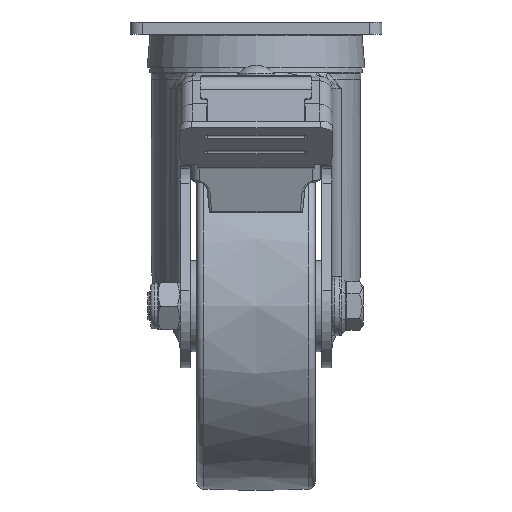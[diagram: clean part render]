
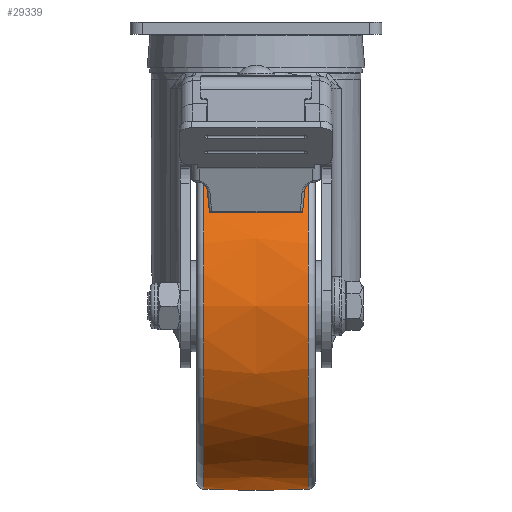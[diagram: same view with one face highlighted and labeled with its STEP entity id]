
A CAD part, left-side view. The second image highlights one B-rep face of the part: STEP entity #29339.
In plain terms, the highlighted free-form (B-spline) face has degree [2, 2] with [3, 9] control points.
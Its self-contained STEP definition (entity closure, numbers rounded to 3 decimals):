
#7224=(
BOUNDED_SURFACE()
B_SPLINE_SURFACE(2,2,((#41277,#41278,#41279,#41280,#41281,#41282,#41283,
#41284,#41285),(#41286,#41287,#41288,#41289,#41290,#41291,#41292,#41293,
#41294),(#41295,#41296,#41297,#41298,#41299,#41300,#41301,#41302,#41303)),
 .UNSPECIFIED.,.F.,.T.,.F.)
B_SPLINE_SURFACE_WITH_KNOTS((3,3),(3,2,2,2,3),(-0.03,0.03),
(-3.142,-1.571,0.,1.571,3.142),
 .UNSPECIFIED.)
GEOMETRIC_REPRESENTATION_ITEM()
RATIONAL_B_SPLINE_SURFACE(((1.,0.707,1.,0.707,1.,
0.707,1.,0.707,1.),(1.,0.707,
1.,0.707,1.,0.707,1.,
0.707,1.),(1.,0.707,1.,0.707,
1.,0.707,1.,0.707,1.)))
REPRESENTATION_ITEM('')
SURFACE()
);
#7426=FACE_OUTER_BOUND('',#9119,.T.);
#9119=EDGE_LOOP('',(#19293,#19294,#19295,#19296,#19297,#19298));
#10925=CIRCLE('',#31057,74.182);
#10926=CIRCLE('',#31058,74.182);
#10927=CIRCLE('',#31059,74.182);
#10928=CIRCLE('',#31060,700.);
#10929=CIRCLE('',#31061,74.182);
#11785=VERTEX_POINT('',#41272);
#11786=VERTEX_POINT('',#41274);
#11787=VERTEX_POINT('',#41304);
#11788=VERTEX_POINT('',#41305);
#14728=EDGE_CURVE('',#11785,#11786,#10925,.T.);
#14729=EDGE_CURVE('',#11786,#11785,#10926,.T.);
#14730=EDGE_CURVE('',#11787,#11788,#10927,.T.);
#14731=EDGE_CURVE('',#11788,#11785,#10928,.T.);
#14732=EDGE_CURVE('',#11788,#11787,#10929,.T.);
#19293=ORIENTED_EDGE('',*,*,#14730,.T.);
#19294=ORIENTED_EDGE('',*,*,#14731,.T.);
#19295=ORIENTED_EDGE('',*,*,#14729,.F.);
#19296=ORIENTED_EDGE('',*,*,#14728,.F.);
#19297=ORIENTED_EDGE('',*,*,#14731,.F.);
#19298=ORIENTED_EDGE('',*,*,#14732,.T.);
#29339=ADVANCED_FACE('',(#7426),#7224,.F.);
#31057=AXIS2_PLACEMENT_3D('',#41275,#33523,#33524);
#31058=AXIS2_PLACEMENT_3D('',#41276,#33525,#33526);
#31059=AXIS2_PLACEMENT_3D('',#41306,#33527,#33528);
#31060=AXIS2_PLACEMENT_3D('',#41307,#33529,#33530);
#31061=AXIS2_PLACEMENT_3D('',#41308,#33531,#33532);
#33523=DIRECTION('center_axis',(0.,1.,0.));
#33524=DIRECTION('ref_axis',(0.,0.,
1.));
#33525=DIRECTION('center_axis',(0.,1.,0.));
#33526=DIRECTION('ref_axis',(0.,0.,
1.));
#33527=DIRECTION('center_axis',(0.,1.,0.));
#33528=DIRECTION('ref_axis',(0.,0.,
1.));
#33529=DIRECTION('center_axis',(1.,0.,0.));
#33530=DIRECTION('ref_axis',(0.,0.,
-1.));
#33531=DIRECTION('center_axis',(0.,1.,0.));
#33532=DIRECTION('ref_axis',(0.,0.,
1.));
#41272=CARTESIAN_POINT('',(-55.,21.09,-189.182));
#41274=CARTESIAN_POINT('',(-55.,21.09,-40.818));
#41275=CARTESIAN_POINT('Origin',(-55.,21.09,-115.));
#41276=CARTESIAN_POINT('Origin',(-55.,21.09,-115.));
#41277=CARTESIAN_POINT('Ctrl Pts',(-55.,-21.09,
-189.182));
#41278=CARTESIAN_POINT('Ctrl Pts',(-129.182,-21.09,
-189.182));
#41279=CARTESIAN_POINT('Ctrl Pts',(-129.182,-21.09,
-115.));
#41280=CARTESIAN_POINT('Ctrl Pts',(-129.182,-21.09,
-40.818));
#41281=CARTESIAN_POINT('Ctrl Pts',(-55.,-21.09,
-40.818));
#41282=CARTESIAN_POINT('Ctrl Pts',(19.182,-21.09,-40.818));
#41283=CARTESIAN_POINT('Ctrl Pts',(19.182,-21.09,-115.));
#41284=CARTESIAN_POINT('Ctrl Pts',(19.182,-21.09,-189.182));
#41285=CARTESIAN_POINT('Ctrl Pts',(-55.,-21.09,
-189.182));
#41286=CARTESIAN_POINT('Ctrl Pts',(-55.,0.,
-189.818));
#41287=CARTESIAN_POINT('Ctrl Pts',(-129.818,0.,
-189.818));
#41288=CARTESIAN_POINT('Ctrl Pts',(-129.818,0.,
-115.));
#41289=CARTESIAN_POINT('Ctrl Pts',(-129.818,0.,
-40.182));
#41290=CARTESIAN_POINT('Ctrl Pts',(-55.,0.,
-40.182));
#41291=CARTESIAN_POINT('Ctrl Pts',(19.818,0.,
-40.182));
#41292=CARTESIAN_POINT('Ctrl Pts',(19.818,0.,
-115.));
#41293=CARTESIAN_POINT('Ctrl Pts',(19.818,0.,
-189.818));
#41294=CARTESIAN_POINT('Ctrl Pts',(-55.,0.,
-189.818));
#41295=CARTESIAN_POINT('Ctrl Pts',(-55.,21.09,-189.182));
#41296=CARTESIAN_POINT('Ctrl Pts',(-129.182,21.09,-189.182));
#41297=CARTESIAN_POINT('Ctrl Pts',(-129.182,21.09,-115.));
#41298=CARTESIAN_POINT('Ctrl Pts',(-129.182,21.09,-40.818));
#41299=CARTESIAN_POINT('Ctrl Pts',(-55.,21.09,-40.818));
#41300=CARTESIAN_POINT('Ctrl Pts',(19.182,21.09,-40.818));
#41301=CARTESIAN_POINT('Ctrl Pts',(19.182,21.09,-115.));
#41302=CARTESIAN_POINT('Ctrl Pts',(19.182,21.09,-189.182));
#41303=CARTESIAN_POINT('Ctrl Pts',(-55.,21.09,-189.182));
#41304=CARTESIAN_POINT('',(-55.,-21.09,-40.818));
#41305=CARTESIAN_POINT('',(-55.,-21.09,-189.182));
#41306=CARTESIAN_POINT('Origin',(-55.,-21.09,-115.));
#41307=CARTESIAN_POINT('Origin',(-55.,0.,
510.5));
#41308=CARTESIAN_POINT('Origin',(-55.,-21.09,-115.));
